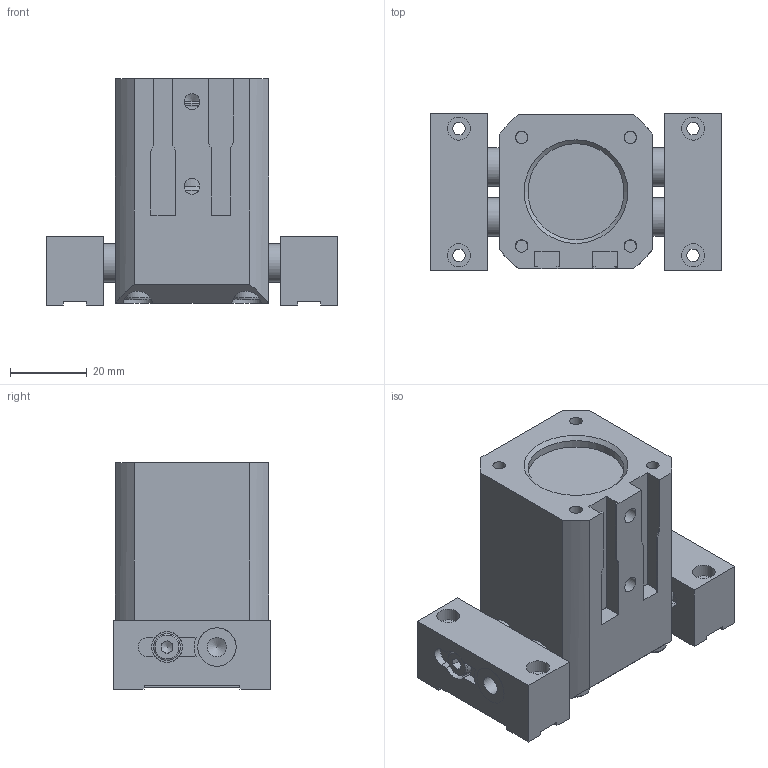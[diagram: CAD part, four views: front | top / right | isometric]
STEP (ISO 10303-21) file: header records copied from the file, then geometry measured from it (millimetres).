
FILE_DESCRIPTION((''),'2;1');
FILE_NAME('T:\CAD\Standard\Daten\3D-Datenbank\GP\GP050\step-Daten\G-GP050-l1-O+UB open.stp','2012-12-06T14:10:55',('dirk'),(''),'Autodesk Inventor 2011','Autodesk Inventor 2011','');
FILE_SCHEMA(('AUTOMOTIVE_DESIGN { 1 0 10303 214 1 1 1 1 }'));
Length unit declared in the file: millimetre
Products named in the file (3): Baugruppe13; G-GP050-UB+B1-O-GÖ; G-GP050-l1-O ohne-Backen
Assembly tree (3 placements, depth 2):
  Baugruppe13
    G-GP050-UB+B1-O-GÖ  x2
    G-GP050-l1-O ohne-Backen
Bounding box: 76 x 41 x 59 mm (x, y, z)
Volume: 94128.6 mm3; surface area: 42822.1 mm2
Topology: 3 solids, 21 shells, 400 faces, 985 edges, 643 vertices
Faces by surface type: plane 226, cylinder 115, cone 34, torus 25
Full cylindrical faces by diameter (mm): 2.459 x2, 3.242 x10, 4 x6, 4.134 x2, 4.3 x4, 4.5 x2, 4.917 x1, 5 x2, 6 x5, 6.4 x1, 7 x6, 8 x8, 10 x8, 12 x8, 14 x1, 15 x2, 17 x2, 20 x1, 23 x2, 23.6 x2, 25 x1, 27 x1, 27.1 x2, 30 x5
Entity records: 9316 total; most frequent: CARTESIAN_POINT 1992, DIRECTION 1450, ORIENTED_EDGE 1208, EDGE_CURVE 604, AXIS2_PLACEMENT_3D 579, EDGE_LOOP 522, VERTEX_POINT 453, STYLED_ITEM 327
